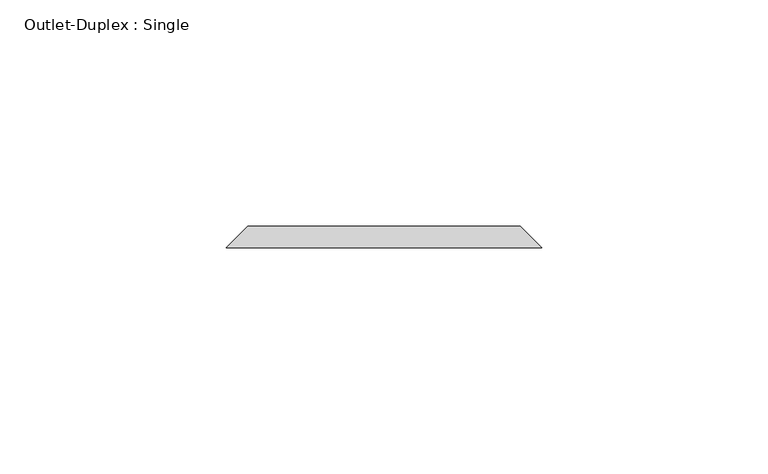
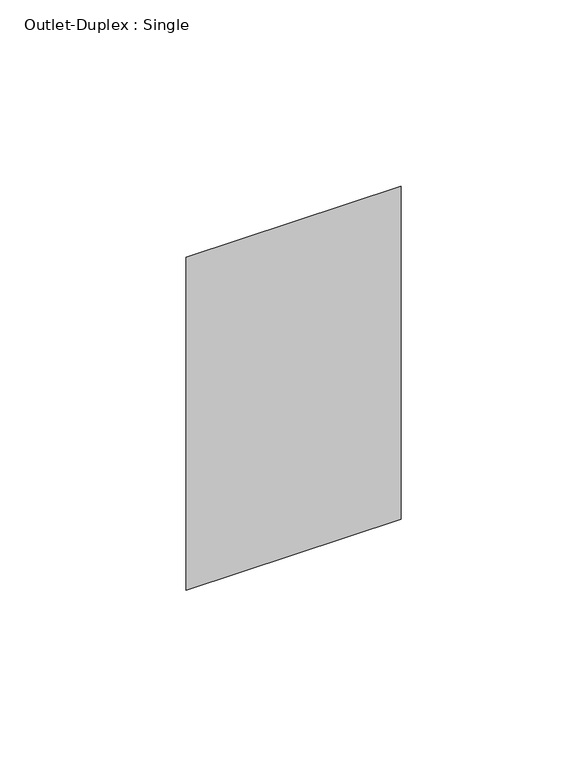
"""IFC4 building model written with IfcOpenShell, lengths in millimetres: proxy geometry, Outlet-Duplex : Single."""

from ifc_helpers import new_model, si_unit, origin, place, context, project, spatial, faceted_brep, source, transform, mapped, element, save


def outlet_duplex_single_ff17b859(model_context):
    return source(origin(), model_context, "Body", "Brep", [
        faceted_brep([(-30.1625, 120.65, 357.1875), (30.1625, 120.65, 357.1875), (30.1625, 120.65, 252.4125), (-30.1625, 120.65, 252.4125), (-34.925, 115.8875, 361.95), (-34.925, 115.8875, 247.65), (34.925, 115.8875, 247.65), (34.925, 115.8875, 361.95)], [[[0, 1, 2, 3]], [[4, 5, 6, 7]], [[4, 7, 1, 0]], [[7, 6, 2, 1]], [[6, 5, 3, 2]], [[5, 4, 0, 3]]]),
    ])


if __name__ == "__main__":
    model = new_model("IFC4")
    model_context = context("Model", 3, world=origin())
    ifc_project = project(units=[si_unit("LENGTHUNIT", "METRE", prefix="MILLI")], contexts=[model_context])
    site = spatial("IfcSite", under=ifc_project)
    building = spatial("IfcBuilding", under=site)
    placement = place(None, origin())
    outlet_duplex_single_shape = outlet_duplex_single_ff17b859(model_context)
    element("IfcBuildingElementProxy", 1, Name="Outlet-Duplex : Single", ObjectType="Outlet-Duplex : Single", at=placement, inside=building, context=model_context, shape_type="MappedRepresentation", body=[
        mapped(outlet_duplex_single_shape, transform((0.0, 0.0, 0.0), x_axis=(1.0, 0.0, 0.0), y_axis=(0.0, 1.0, 0.0), z_axis=(0.0, 0.0, 1.0))),
    ])
    save(model, "model.ifc")
